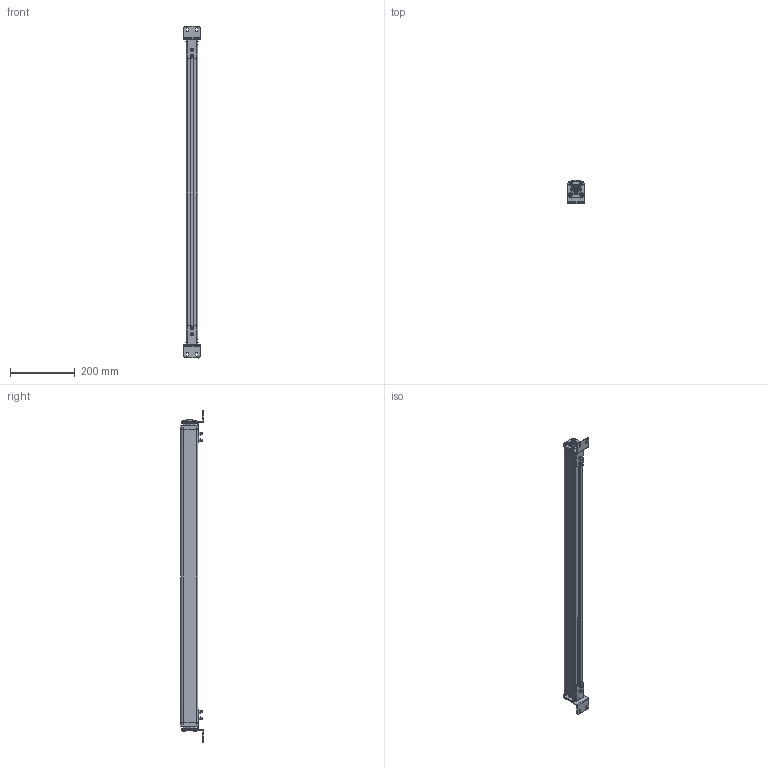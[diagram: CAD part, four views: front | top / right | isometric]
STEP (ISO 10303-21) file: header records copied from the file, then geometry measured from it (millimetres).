
FILE_DESCRIPTION (( 'STEP AP203' ), '1' );
FILE_NAME ('LN-SNABC4420-2240-郪磁盓殤淏蚾.step', '2021-04-27T03:17:59', ( '' ), ( '' ), 'SwSTEP 2.0', 'SolidWorks 2020', '' );
FILE_SCHEMA (( 'CONFIG_CONTROL_DESIGN' ));
Length unit declared in the file: millimetre
Products named in the file (15): hex nuts, style 1-grades ab gb_GB_FASTENER_NUT_SNAB1 M6-N; 郪磁盓殤-1-63 ; SNABC4420 薦嫖え; SN奻傷裔; 郪磁盓殤-淏蚾; hex lobular socket head cap screws-4.8 gb_GB_HEXAGON_TYPE21 M6X12-12-C; SNABC4420 倰第; T倰蹟隊; 躇猾菜; SN狟傷裔; LNGM-SNABC4420-2240-0; ほ郋瑤諾脣璃渀芛; 郪磁盓殤2; LN-SNABC4420-2240-郪磁盓殤淏蚾
Assembly tree (30 placements, depth 3):
  LN-SNABC4420-2240-郪磁盓殤淏蚾
    LNGM-SNABC4420-2240-0
      SNABC4420 倰第
      SNABC4420 薦嫖え
      SN奻傷裔
      SN狟傷裔
      躇猾菜  x2
      ほ郋瑤諾脣璃渀芛
    郪磁盓殤-淏蚾
      郪磁盓殤-1-63 
      郪磁盓殤2
      T倰蹟隊  x2
      hex nuts, style 1-grades ab gb_GB_FASTENER_NUT_SNAB1 M6-N  x2
      hex lobular socket head cap screws-4.8 gb_GB_HEXAGON_TYPE21 M6X12-12-C  x4
    郪磁盓殤-淏蚾
      郪磁盓殤-1-63 
      郪磁盓殤2
      T倰蹟隊  x2
      hex nuts, style 1-grades ab gb_GB_FASTENER_NUT_SNAB1 M6-N  x2
      hex lobular socket head cap screws-4.8 gb_GB_HEXAGON_TYPE21 M6X12-12-C  x4
Bounding box: 50 x 71 x 1026 mm (x, y, z)
Volume: 522302.4 mm3; surface area: 443028.7 mm2
Topology: 28 solids, 28 shells, 1055 faces, 2753 edges, 1795 vertices
Faces by surface type: plane 559, cylinder 362, bspline 56, cone 48, torus 16, sphere 14
Entity records: 26204 total; most frequent: CARTESIAN_POINT 5437, ORIENTED_EDGE 3888, DIRECTION 3871, EDGE_CURVE 1944, VECTOR 1363, LINE 1363, VERTEX_POINT 1288, AXIS2_PLACEMENT_3D 1254
